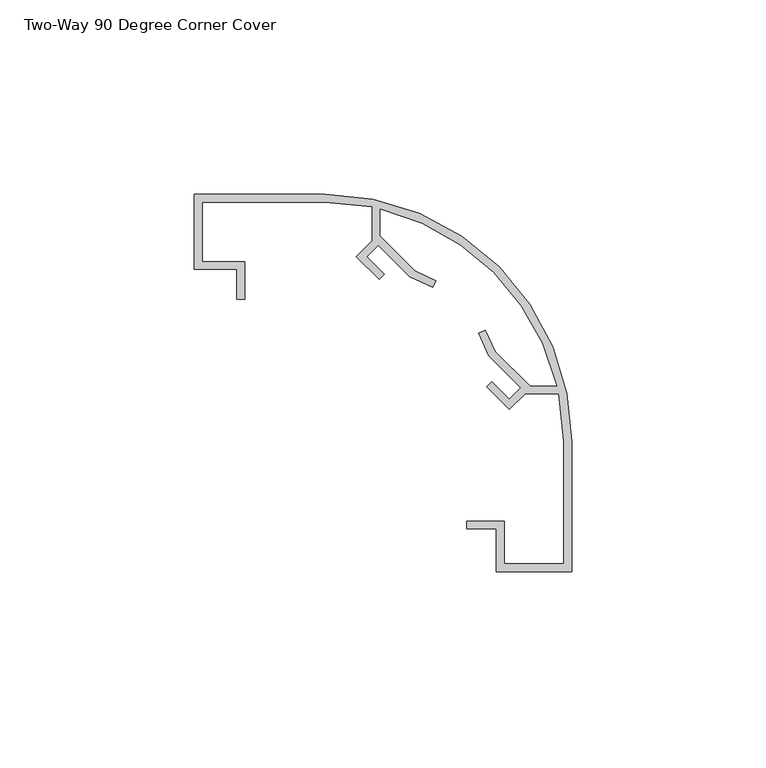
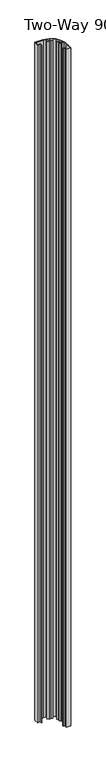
"""IFC4 building model written with IfcOpenShell, lengths in millimetres: proxy geometry, Cover-Teknion-FHP2C-Two_Way_90_Degree-Corner-R2021 : Two-Way 90 Degree Corner Cover."""

from ifc_helpers import new_model, si_unit, point, frame_2d, origin, origin_with_axes, place, context, project, spatial, polyline, circle_curve, trimmed, segment, composite_curve, outline, extrude, source, transform, mapped, element, save


def two_way_90_degree_corner_cover_a609cc2b(model_context):
    return source(origin(), model_context, "Body", "SweptSolid", [
        extrude(outline(composite_curve([segment(polyline([(61.5619621, -76.3749107), (42.2579634, -76.3749107), (42.2579634, -65.4211553), (34.6379616, -65.4211553), (34.6379616, -63.3891572), (44.2899638, -63.3891572), (44.2899638, -74.3429036), (59.5299629, -74.3429036), (59.5299629, -42.8723091), (58.3349994, -30.6549044), (49.6128856, -30.6549044), (45.5821016, -34.6856884), (39.7223245, -28.8711296), (41.0704093, -27.5230486), (45.5605373, -32.0131818), (48.5234701, -29.0502408), (40.3251077, -20.8182841), (37.669872, -15.1241153), (39.3949967, -14.3196798), (41.98556, -19.8171529), (50.9183133, -28.7499062), (57.9342149, -28.7499062), (54.1473676, -17.7179329), (48.6718184, -7.9873881), (41.5264015, 0.5921323), (32.9468812, 7.7375493), (23.2163341, 13.2130984), (12.184363, 16.9684379), (12.184363, 9.9836384), (21.2255081, 0.975396), (26.6152394, -1.5378799), (25.8095407, -3.2657137), (20.0075956, -0.5332669), (11.8633264, 7.5684994), (8.9210881, 4.626268), (13.41122, 0.1361406), (12.0857464, -1.1893368), (6.2259737, 4.6252245), (10.2793649, 8.6786172), (10.2793649, 17.4007301), (-1.9380398, 18.5956936), (-33.4086389, 18.5956936), (-33.4086389, 3.355694), (-22.4548925, 3.355694), (-22.4548925, -6.2963054), (-24.4868906, -6.2963054), (-24.4868906, 1.3236936), (-35.440637, 1.3236936), (-35.440637, 20.6276939), (-1.9380398, 20.6276939)]), True, "CONTINUOUS"), segment(trimmed(circle_curve(frame_2d((-1.9380398, -42.8723079)), 63.5000019), [point((-1.9380398, 20.6276939))], [point((61.5619621, -42.8723079))], False, "CARTESIAN"), True, "CONTINUOUS"), segment(polyline([(61.5619621, -42.8723079), (61.5619621, -76.3749107)]), True, "CONTINUOUS")], self_intersect=False)), origin_with_axes(), (0.0, 0.0, 1.0), 3048.0),
    ])


if __name__ == "__main__":
    model = new_model("IFC4")
    model_context = context("Model", 3, world=origin())
    ifc_project = project(units=[si_unit("LENGTHUNIT", "METRE", prefix="MILLI")], contexts=[model_context])
    site = spatial("IfcSite", under=ifc_project)
    building = spatial("IfcBuilding", under=site)
    placement = place(None, origin())
    two_way_90_degree_corner_cover_shape = two_way_90_degree_corner_cover_a609cc2b(model_context)
    element("IfcBuildingElementProxy", 1, Name="Cover-Teknion-FHP2C-Two_Way_90_Degree-Corner-R2021 : Two-Way 90 Degree Corner Cover", ObjectType="Cover-Teknion-FHP2C-Two_Way_90_Degree-Corner-R2021 : Two-Way 90 Degree Corner Cover", at=placement, inside=building, context=model_context, shape_type="MappedRepresentation", body=[
        mapped(two_way_90_degree_corner_cover_shape, transform((0.0, 0.0, 0.0), x_axis=(1.0, 0.0, 0.0), y_axis=(0.0, 1.0, 0.0), z_axis=(0.0, 0.0, 1.0))),
    ])
    save(model, "model.ifc")
